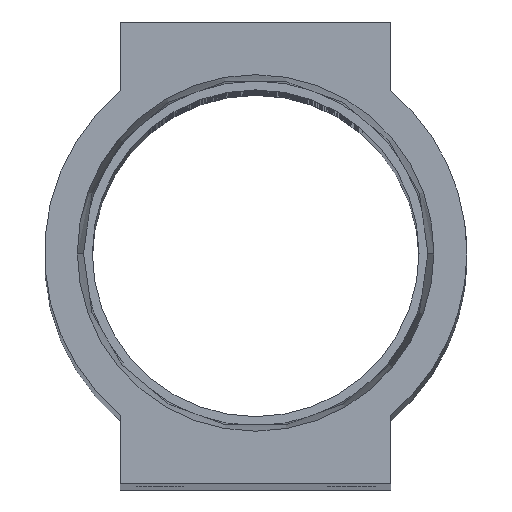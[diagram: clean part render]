
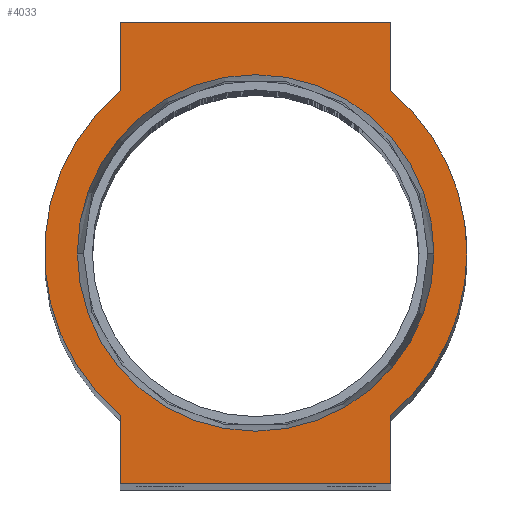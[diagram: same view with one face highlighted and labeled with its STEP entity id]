
A CAD part, top view. The second image highlights one B-rep face of the part: STEP entity #4033.
In plain terms, the highlighted planar face has unit normal (0, 0, 1).
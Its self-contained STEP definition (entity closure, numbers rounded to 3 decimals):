
#50 = CARTESIAN_POINT ( 'NONE',  ( -12., -20.5, 0. ) ) ;
#106 = VERTEX_POINT ( 'NONE', #2224 ) ;
#301 = AXIS2_PLACEMENT_3D ( 'NONE', #8626, #2084, #10869 ) ;
#321 = DIRECTION ( 'NONE',  ( 0., 0., 1. ) ) ;
#415 = CARTESIAN_POINT ( 'NONE',  ( 12., -20.5, 0. ) ) ;
#458 = CARTESIAN_POINT ( 'NONE',  ( -12., -20.5, 0. ) ) ;
#758 = CARTESIAN_POINT ( 'NONE',  ( 12., 20.5, 0. ) ) ;
#818 = CARTESIAN_POINT ( 'NONE',  ( 12., 20.5, 0. ) ) ;
#895 = DIRECTION ( 'NONE',  ( 1., 0., 0. ) ) ;
#981 = ORIENTED_EDGE ( 'NONE', *, *, #4127, .T. ) ;
#1287 = CARTESIAN_POINT ( 'NONE',  ( 0., 0., 0. ) ) ;
#1490 = VERTEX_POINT ( 'NONE', #9248 ) ;
#1537 = DIRECTION ( 'NONE',  ( 0., 1., 0. ) ) ;
#1584 = DIRECTION ( 'NONE',  ( 1., 0., 0. ) ) ;
#1754 = EDGE_LOOP ( 'NONE', ( #5995, #4395 ) ) ;
#1771 = ORIENTED_EDGE ( 'NONE', *, *, #6143, .T. ) ;
#1802 = AXIS2_PLACEMENT_3D ( 'NONE', #4451, #12319, #12259 ) ;
#2084 = DIRECTION ( 'NONE',  ( 0., 0., 1. ) ) ;
#2157 = AXIS2_PLACEMENT_3D ( 'NONE', #1287, #321, #8099 ) ;
#2200 = PLANE ( 'NONE',  #2157 ) ;
#2224 = CARTESIAN_POINT ( 'NONE',  ( 12., 14.407, 0. ) ) ;
#2225 = EDGE_CURVE ( 'NONE', #3448, #8039, #6987, .T. ) ;
#2294 = LINE ( 'NONE', #415, #2554 ) ;
#2312 = EDGE_CURVE ( 'NONE', #5186, #1490, #2294, .T. ) ;
#2554 = VECTOR ( 'NONE', #10337, 1000. ) ;
#2579 = AXIS2_PLACEMENT_3D ( 'NONE', #6308, #4435, #3337 ) ;
#2583 = VECTOR ( 'NONE', #11331, 1000. ) ;
#2624 = CARTESIAN_POINT ( 'NONE',  ( -12., -20.5, 0. ) ) ;
#2700 = EDGE_CURVE ( 'NONE', #7104, #3448, #7438, .T. ) ;
#2765 = LINE ( 'NONE', #758, #9320 ) ;
#3080 = ORIENTED_EDGE ( 'NONE', *, *, #8543, .T. ) ;
#3283 = FACE_OUTER_BOUND ( 'NONE', #9686, .T. ) ;
#3337 = DIRECTION ( 'NONE',  ( 1., 0., 0. ) ) ;
#3448 = VERTEX_POINT ( 'NONE', #12212 ) ;
#3971 = ORIENTED_EDGE ( 'NONE', *, *, #8162, .T. ) ;
#3994 = VECTOR ( 'NONE', #4025, 1000. ) ;
#4025 = DIRECTION ( 'NONE',  ( 0., -1., 0. ) ) ;
#4033 = ADVANCED_FACE ( 'NONE', ( #9005, #3283 ), #2200, .T. ) ;
#4127 = EDGE_CURVE ( 'NONE', #106, #7104, #2765, .T. ) ;
#4395 = ORIENTED_EDGE ( 'NONE', *, *, #9725, .F. ) ;
#4405 = AXIS2_PLACEMENT_3D ( 'NONE', #10717, #8803, #895 ) ;
#4435 = DIRECTION ( 'NONE',  ( 0., 0., 1. ) ) ;
#4451 = CARTESIAN_POINT ( 'NONE',  ( 0., 0., 0. ) ) ;
#5186 = VERTEX_POINT ( 'NONE', #8071 ) ;
#5286 = DIRECTION ( 'NONE',  ( 0., -1., 0. ) ) ;
#5433 = ORIENTED_EDGE ( 'NONE', *, *, #2225, .T. ) ;
#5975 = ORIENTED_EDGE ( 'NONE', *, *, #2312, .T. ) ;
#5995 = ORIENTED_EDGE ( 'NONE', *, *, #8381, .F. ) ;
#6086 = CARTESIAN_POINT ( 'NONE',  ( -12., 20.5, 0. ) ) ;
#6088 = CARTESIAN_POINT ( 'NONE',  ( 15.827, 0., 0. ) ) ;
#6143 = EDGE_CURVE ( 'NONE', #8039, #11335, #7547, .T. ) ;
#6217 = VERTEX_POINT ( 'NONE', #10517 ) ;
#6276 = VECTOR ( 'NONE', #1584, 1000. ) ;
#6308 = CARTESIAN_POINT ( 'NONE',  ( 0., 0., 0. ) ) ;
#6452 = VECTOR ( 'NONE', #5286, 1000. ) ;
#6980 = ORIENTED_EDGE ( 'NONE', *, *, #8869, .T. ) ;
#6987 = LINE ( 'NONE', #6086, #3994 ) ;
#7104 = VERTEX_POINT ( 'NONE', #818 ) ;
#7438 = LINE ( 'NONE', #11215, #2583 ) ;
#7547 = CIRCLE ( 'NONE', #1802, 18.75 ) ;
#7632 = CARTESIAN_POINT ( 'NONE',  ( 0., 0., 0. ) ) ;
#7693 = CIRCLE ( 'NONE', #4405, 15.827 ) ;
#8039 = VERTEX_POINT ( 'NONE', #8388 ) ;
#8071 = CARTESIAN_POINT ( 'NONE',  ( 12., -20.5, 0. ) ) ;
#8099 = DIRECTION ( 'NONE',  ( 1., 0., 0. ) ) ;
#8121 = ORIENTED_EDGE ( 'NONE', *, *, #10057, .T. ) ;
#8162 = EDGE_CURVE ( 'NONE', #11335, #9465, #8177, .T. ) ;
#8177 = LINE ( 'NONE', #458, #6452 ) ;
#8254 = CARTESIAN_POINT ( 'NONE',  ( -15.827, 0., 0. ) ) ;
#8381 = EDGE_CURVE ( 'NONE', #8980, #9049, #7693, .T. ) ;
#8388 = CARTESIAN_POINT ( 'NONE',  ( -12., 14.407, 0. ) ) ;
#8543 = EDGE_CURVE ( 'NONE', #1490, #6217, #11971, .T. ) ;
#8626 = CARTESIAN_POINT ( 'NONE',  ( 0., 0., 0. ) ) ;
#8803 = DIRECTION ( 'NONE',  ( 0., 0., 1. ) ) ;
#8869 = EDGE_CURVE ( 'NONE', #9465, #5186, #9537, .T. ) ;
#8922 = CIRCLE ( 'NONE', #301, 18.75 ) ;
#8980 = VERTEX_POINT ( 'NONE', #6088 ) ;
#9005 = FACE_BOUND ( 'NONE', #1754, .T. ) ;
#9049 = VERTEX_POINT ( 'NONE', #8254 ) ;
#9248 = CARTESIAN_POINT ( 'NONE',  ( 12., -14.407, 0. ) ) ;
#9320 = VECTOR ( 'NONE', #1537, 1000. ) ;
#9465 = VERTEX_POINT ( 'NONE', #50 ) ;
#9516 = CIRCLE ( 'NONE', #12577, 15.827 ) ;
#9537 = LINE ( 'NONE', #2624, #6276 ) ;
#9686 = EDGE_LOOP ( 'NONE', ( #981, #12196, #5433, #1771, #3971, #6980, #5975, #3080, #8121 ) ) ;
#9725 = EDGE_CURVE ( 'NONE', #9049, #8980, #9516, .T. ) ;
#10057 = EDGE_CURVE ( 'NONE', #6217, #106, #8922, .T. ) ;
#10337 = DIRECTION ( 'NONE',  ( 0., 1., 0. ) ) ;
#10517 = CARTESIAN_POINT ( 'NONE',  ( 18.75, 0., 0. ) ) ;
#10549 = DIRECTION ( 'NONE',  ( 1., 0., 0. ) ) ;
#10717 = CARTESIAN_POINT ( 'NONE',  ( 0., 0., 0. ) ) ;
#10869 = DIRECTION ( 'NONE',  ( 1., 0., 0. ) ) ;
#11140 = CARTESIAN_POINT ( 'NONE',  ( -12., -14.407, 0. ) ) ;
#11215 = CARTESIAN_POINT ( 'NONE',  ( -12., 20.5, 0. ) ) ;
#11331 = DIRECTION ( 'NONE',  ( -1., 0., 0. ) ) ;
#11335 = VERTEX_POINT ( 'NONE', #11140 ) ;
#11531 = DIRECTION ( 'NONE',  ( 0., 0., 1. ) ) ;
#11971 = CIRCLE ( 'NONE', #2579, 18.75 ) ;
#12196 = ORIENTED_EDGE ( 'NONE', *, *, #2700, .T. ) ;
#12212 = CARTESIAN_POINT ( 'NONE',  ( -12., 20.5, 0. ) ) ;
#12259 = DIRECTION ( 'NONE',  ( 1., 0., 0. ) ) ;
#12319 = DIRECTION ( 'NONE',  ( 0., 0., 1. ) ) ;
#12577 = AXIS2_PLACEMENT_3D ( 'NONE', #7632, #11531, #10549 ) ;
